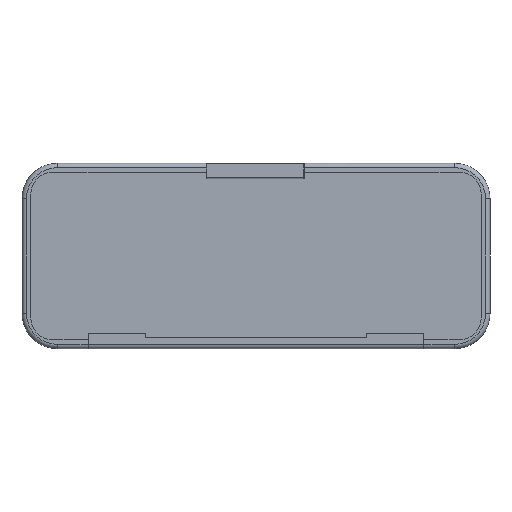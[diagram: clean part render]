
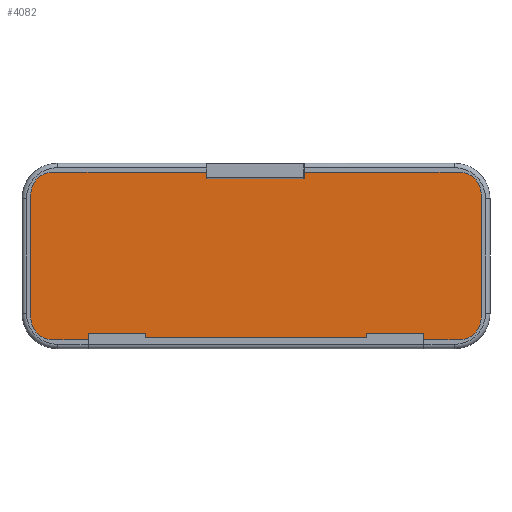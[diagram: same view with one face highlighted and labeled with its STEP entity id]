
A CAD part, front view. The second image highlights one B-rep face of the part: STEP entity #4082.
In plain terms, the highlighted planar face has unit normal (0, -1, 0).
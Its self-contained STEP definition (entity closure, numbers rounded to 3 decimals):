
#250=PLANE('',#4546);
#497=FACE_OUTER_BOUND('',#769,.T.);
#769=EDGE_LOOP('',(#3665,#3666,#3667,#3668,#3669,#3670,#3671,#3672,#3673,
#3674,#3675,#3676,#3677,#3678,#3679,#3680,#3681,#3682));
#786=LINE('',#5812,#1111);
#795=LINE('',#5837,#1120);
#807=LINE('',#5895,#1132);
#839=LINE('',#6055,#1164);
#943=LINE('',#6284,#1268);
#944=LINE('',#6286,#1269);
#946=LINE('',#6290,#1271);
#948=LINE('',#6294,#1273);
#968=LINE('',#6404,#1293);
#1043=LINE('',#9172,#1368);
#1092=LINE('',#9795,#1417);
#1093=LINE('',#9796,#1418);
#1111=VECTOR('',#4573,10.);
#1120=VECTOR('',#4594,10.);
#1132=VECTOR('',#4636,10.);
#1164=VECTOR('',#4794,10.);
#1268=VECTOR('',#4996,10.);
#1269=VECTOR('',#4999,10.);
#1271=VECTOR('',#5003,10.);
#1273=VECTOR('',#5007,10.);
#1293=VECTOR('',#5107,10.);
#1368=VECTOR('',#5418,10.);
#1417=VECTOR('',#5755,10.);
#1418=VECTOR('',#5756,10.);
#1434=CIRCLE('',#4106,0.1);
#1436=CIRCLE('',#4110,0.1);
#1484=CIRCLE('',#4234,5.);
#1485=CIRCLE('',#4236,5.);
#1486=CIRCLE('',#4238,5.);
#1505=CIRCLE('',#4286,5.);
#1629=VERTEX_POINT('',#5802);
#1630=VERTEX_POINT('',#5803);
#1633=VERTEX_POINT('',#5811);
#1635=VERTEX_POINT('',#5817);
#1643=VERTEX_POINT('',#5835);
#1662=VERTEX_POINT('',#5894);
#1703=VERTEX_POINT('',#6054);
#1772=VERTEX_POINT('',#6261);
#1773=VERTEX_POINT('',#6263);
#1774=VERTEX_POINT('',#6267);
#1775=VERTEX_POINT('',#6269);
#1776=VERTEX_POINT('',#6273);
#1777=VERTEX_POINT('',#6275);
#1780=VERTEX_POINT('',#6288);
#1781=VERTEX_POINT('',#6292);
#1831=VERTEX_POINT('',#6402);
#1924=VERTEX_POINT('',#9170);
#1981=VERTEX_POINT('',#9794);
#1988=EDGE_CURVE('',#1629,#1630,#1434,.T.);
#1992=EDGE_CURVE('',#1633,#1629,#786,.T.);
#1995=EDGE_CURVE('',#1635,#1633,#1436,.T.);
#2004=EDGE_CURVE('',#1630,#1643,#795,.T.);
#2027=EDGE_CURVE('',#1662,#1635,#807,.T.);
#2097=EDGE_CURVE('',#1662,#1703,#839,.T.);
#2199=EDGE_CURVE('',#1772,#1773,#1484,.T.);
#2202=EDGE_CURVE('',#1774,#1775,#1485,.T.);
#2205=EDGE_CURVE('',#1776,#1777,#1486,.T.);
#2209=EDGE_CURVE('',#1773,#1643,#943,.T.);
#2210=EDGE_CURVE('',#1775,#1772,#944,.T.);
#2212=EDGE_CURVE('',#1777,#1780,#946,.T.);
#2214=EDGE_CURVE('',#1781,#1774,#948,.T.);
#2266=EDGE_CURVE('',#1831,#1776,#968,.T.);
#2267=EDGE_CURVE('',#1703,#1831,#1505,.T.);
#2431=EDGE_CURVE('',#1924,#1781,#1043,.T.);
#2558=EDGE_CURVE('',#1981,#1924,#1092,.T.);
#2559=EDGE_CURVE('',#1780,#1981,#1093,.T.);
#3665=ORIENTED_EDGE('',*,*,#2004,.T.);
#3666=ORIENTED_EDGE('',*,*,#2209,.F.);
#3667=ORIENTED_EDGE('',*,*,#2199,.F.);
#3668=ORIENTED_EDGE('',*,*,#2210,.F.);
#3669=ORIENTED_EDGE('',*,*,#2202,.F.);
#3670=ORIENTED_EDGE('',*,*,#2214,.F.);
#3671=ORIENTED_EDGE('',*,*,#2431,.F.);
#3672=ORIENTED_EDGE('',*,*,#2558,.F.);
#3673=ORIENTED_EDGE('',*,*,#2559,.F.);
#3674=ORIENTED_EDGE('',*,*,#2212,.F.);
#3675=ORIENTED_EDGE('',*,*,#2205,.F.);
#3676=ORIENTED_EDGE('',*,*,#2266,.F.);
#3677=ORIENTED_EDGE('',*,*,#2267,.F.);
#3678=ORIENTED_EDGE('',*,*,#2097,.F.);
#3679=ORIENTED_EDGE('',*,*,#2027,.T.);
#3680=ORIENTED_EDGE('',*,*,#1995,.T.);
#3681=ORIENTED_EDGE('',*,*,#1992,.T.);
#3682=ORIENTED_EDGE('',*,*,#1988,.T.);
#4082=ADVANCED_FACE('',(#497),#250,.T.);
#4106=AXIS2_PLACEMENT_3D('',#5804,#4565,#4566);
#4110=AXIS2_PLACEMENT_3D('',#5818,#4578,#4579);
#4234=AXIS2_PLACEMENT_3D('',#6264,#4974,#4975);
#4236=AXIS2_PLACEMENT_3D('',#6270,#4980,#4981);
#4238=AXIS2_PLACEMENT_3D('',#6276,#4986,#4987);
#4286=AXIS2_PLACEMENT_3D('',#6406,#5110,#5111);
#4546=AXIS2_PLACEMENT_3D('',#9793,#5753,#5754);
#4565=DIRECTION('center_axis',(0.,1.,0.));
#4566=DIRECTION('ref_axis',(-0.707,0.,-0.707));
#4573=DIRECTION('',(-1.,0.,0.));
#4578=DIRECTION('center_axis',(0.,1.,0.));
#4579=DIRECTION('ref_axis',(0.707,0.,-0.707));
#4594=DIRECTION('',(0.,0.,1.));
#4636=DIRECTION('',(0.,0.,-1.));
#4794=DIRECTION('',(1.,0.,0.));
#4974=DIRECTION('center_axis',(0.,1.,0.));
#4975=DIRECTION('ref_axis',(0.,0.,-1.));
#4980=DIRECTION('center_axis',(0.,1.,0.));
#4981=DIRECTION('ref_axis',(1.,0.,0.));
#4986=DIRECTION('center_axis',(0.,1.,0.));
#4987=DIRECTION('ref_axis',(0.,0.,
1.));
#4996=DIRECTION('',(1.,0.,0.));
#4999=DIRECTION('',(0.,0.,1.));
#5003=DIRECTION('',(-1.,0.,0.));
#5007=DIRECTION('',(-1.,0.,0.));
#5107=DIRECTION('',(0.,0.,-1.));
#5110=DIRECTION('center_axis',(0.,1.,0.));
#5111=DIRECTION('ref_axis',(-1.,0.,0.));
#5418=DIRECTION('',(0.,0.,-1.));
#5753=DIRECTION('center_axis',(0.,-1.,0.));
#5754=DIRECTION('ref_axis',(1.,0.,0.));
#5755=DIRECTION('',(-1.,0.,0.));
#5756=DIRECTION('',(0.,0.,1.));
#5802=CARTESIAN_POINT('',(-11.15,-39.,18.));
#5803=CARTESIAN_POINT('',(-11.25,-39.,18.1));
#5804=CARTESIAN_POINT('Origin',(-11.15,-39.,18.1));
#5811=CARTESIAN_POINT('',(10.85,-39.,18.));
#5812=CARTESIAN_POINT('',(-0.825,-39.,18.));
#5817=CARTESIAN_POINT('',(10.95,-39.,18.1));
#5818=CARTESIAN_POINT('Origin',(10.85,-39.,18.1));
#5835=CARTESIAN_POINT('',(-11.25,-39.,19.));
#5837=CARTESIAN_POINT('',(-11.25,-39.,0.8));
#5894=CARTESIAN_POINT('',(10.95,-39.,19.));
#5895=CARTESIAN_POINT('',(10.95,-39.,0.8));
#6054=CARTESIAN_POINT('',(46.,-39.,19.));
#6055=CARTESIAN_POINT('',(23.,-39.,19.));
#6261=CARTESIAN_POINT('',(-51.,-39.,14.));
#6263=CARTESIAN_POINT('',(-46.,-39.,19.));
#6264=CARTESIAN_POINT('Origin',(-46.,-39.,14.));
#6267=CARTESIAN_POINT('',(-46.,-39.,-19.));
#6269=CARTESIAN_POINT('',(-51.,-39.,-14.));
#6270=CARTESIAN_POINT('Origin',(-46.,-39.,-14.));
#6273=CARTESIAN_POINT('',(51.,-39.,-14.));
#6275=CARTESIAN_POINT('',(46.,-39.,-19.));
#6276=CARTESIAN_POINT('Origin',(46.,-39.,-14.));
#6284=CARTESIAN_POINT('',(23.,-39.,19.));
#6286=CARTESIAN_POINT('',(-51.,-39.,7.));
#6288=CARTESIAN_POINT('',(38.,-39.,-19.));
#6290=CARTESIAN_POINT('',(-23.,-39.,-19.));
#6292=CARTESIAN_POINT('',(-38.,-39.,-19.));
#6294=CARTESIAN_POINT('',(-23.,-39.,-19.));
#6402=CARTESIAN_POINT('',(51.,-39.,14.));
#6404=CARTESIAN_POINT('',(51.,-39.,-7.));
#6406=CARTESIAN_POINT('Origin',(46.,-39.,14.));
#9170=CARTESIAN_POINT('',(-38.,-39.,-18.5));
#9172=CARTESIAN_POINT('',(-38.,-39.,-9.722));
#9793=CARTESIAN_POINT('Origin',(-1.5,-39.,-15.));
#9794=CARTESIAN_POINT('',(38.,-39.,-18.5));
#9795=CARTESIAN_POINT('',(0.,-39.,-18.5));
#9796=CARTESIAN_POINT('',(38.,-39.,-9.722));
